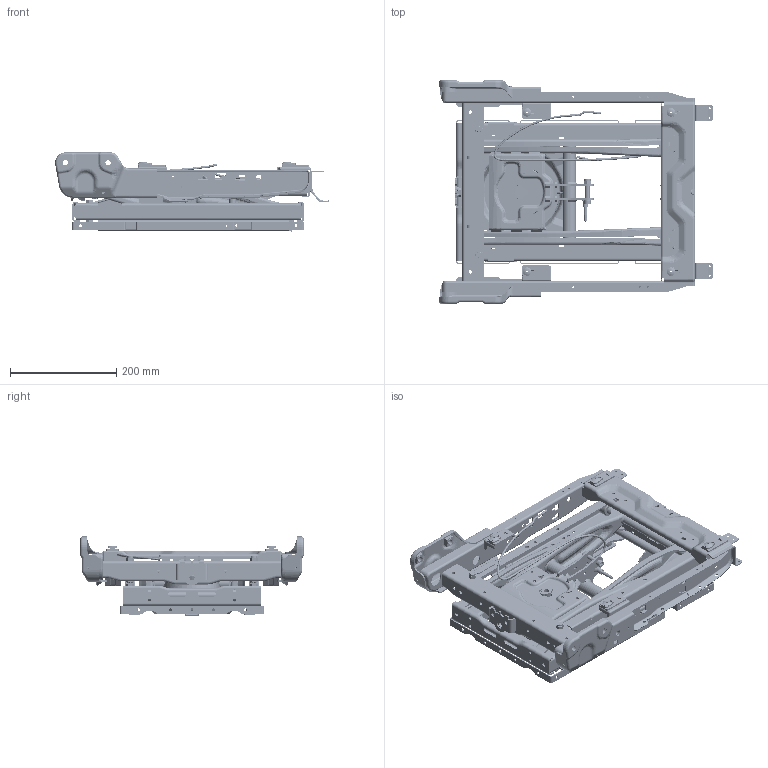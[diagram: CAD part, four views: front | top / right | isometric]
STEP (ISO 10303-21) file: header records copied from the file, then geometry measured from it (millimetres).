
FILE_DESCRIPTION(('CATIA V5 STEP Exchange'),'2;1');
FILE_NAME('D:\Gao Bingchuan\Desktop\SHT0016420_样件数据_20230926.stp','2023-09-26T11:23:17+00:00',('none'),('none'),'CATIA Version 5 Release 20 GA (IN-10)','CATIA V5 STEP AP203 Edition 2','none');
FILE_SCHEMA(('AP203_CONFIGURATION_CONTROLLED_3D_DESIGN_OF_MECHANICAL_PARTS_AND_ASSEMBLIES_MIM_LF { 1 0 10303 403 2 1 2}'));
Products named in the file (83): SHT0016420; SHT0016618; SHT0016571; SHT0016542; SQX3000-6805422; SQX3000-6805318; SHT0012269; SHT0012267; Q37110; H4B-6805326; SHT0016547; SHT0016545; SHT0014594; SQX3000-6805423; SQX3000-6805317; SQX3000-6805319; SHT0014563; SHT0016543; SHT0016544; BFA0000400; SHT0012268; SHT0012266; Q37106; H5-6801110; BFA0010096; SHT0011517; SHT0011518; SHT0011519; SHT0010047; SHT0011520; SHT0010049; SHT0010050; SHT0010051; SHT0011521; SHT0010054; SHT0010052; SHT0011521-H; SHT0011519-H; BAS0010003; SHT0010056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
Assembly tree (128 placements, depth 6):
  SHT0016420
    SHT0016618
      SHT0016571
        SHT0016542
        SQX3000-6805422
        SQX3000-6805318  x2
        SHT0012269
          SHT0012267
          Q37110  x2
          H4B-6805326
        SHT0016547
        SHT0016545  x2
        SHT0014594  x2
        SQX3000-6805423
        SQX3000-6805317
        SQX3000-6805319
        SHT0014563
        SHT0016543
          SHT0016544
          BFA0000400
        SHT0012268
          Q37110  x2
          H4B-6805326
          SHT0012266
        Q37106
      H5-6801110  x4
      BFA0010096  x4
    SHT0011517
      SHT0011518
        SHT0011519
          SHT0010047
          SHT0011520
          SHT0010049
          SHT0010050  x2
          SHT0010051
          SHT0011521
            SHT0010054
            SHT0010052
            SHT0011521-H
          SHT0011519-H
          SHT0010052
        BAS0010003  x2
      SHT0010056  x2
        SHT0010057
        SHT0010058
        SHT0010056-H
      SHT0010047
      SHT0010049
      SHT0011517-H
      SHT0010306
        SHT0010053
        BFA0010062
    SHT0016548  x4
    SHT0010811  x4
      SHT0010812
      SHT0010813
    SHT0013932  x2
    SHT0010230
      SHT0011580
      SHT0011211
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Bounding box: 514.38 x 420 x 148.85 mm (x, y, z)
Volume: 2322895.1 mm3; surface area: 1615008.4 mm2
Topology: 168 solids, 168 shells, 10194 faces, 27259 edges, 17438 vertices
Faces by surface type: cylinder 3828, plane 2748, bspline 1395, torus 874, cone 678, extrusion 426, sphere 166, revolution 79
Entity records: 500036 total; most frequent: CARTESIAN_POINT 344641, ORIENTED_EDGE 36360, DIRECTION 22518, EDGE_CURVE 18180, VERTEX_POINT 11807, AXIS2_PLACEMENT_3D 9498, VECTOR 7660, EDGE_LOOP 7351
